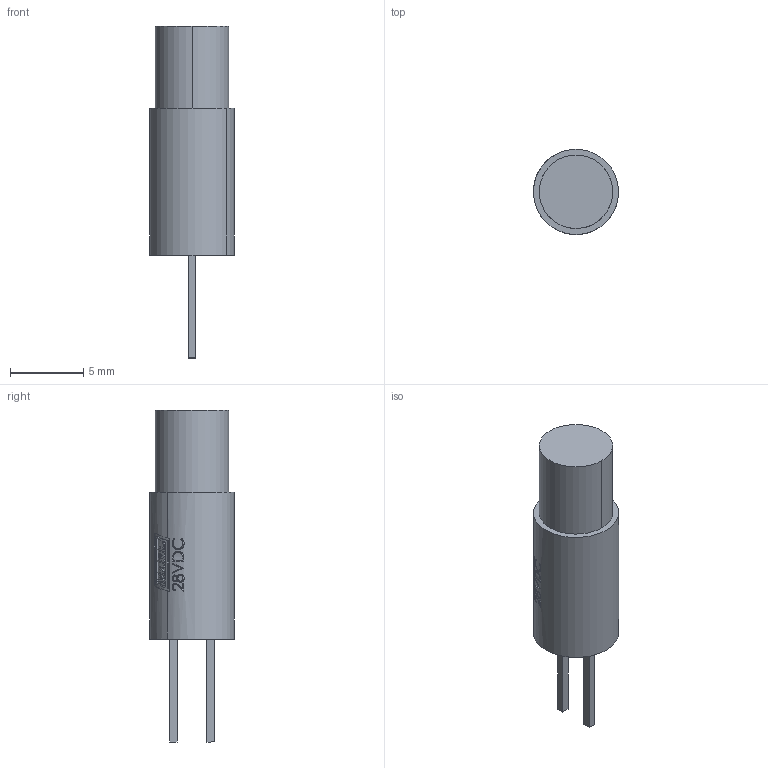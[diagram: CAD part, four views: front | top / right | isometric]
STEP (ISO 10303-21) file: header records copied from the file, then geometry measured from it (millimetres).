
FILE_DESCRIPTION (( 'STEP AP203' ), '1' );
FILE_NAME ('204 Series.STEP', '2016-08-03T08:07:56', ( '' ), ( '' ), 'SwSTEP 2.0', 'SolidWorks 2016', '' );
FILE_SCHEMA (( 'CONFIG_CONTROL_DESIGN' ));
Length unit declared in the file: millimetre
Products named in the file (3): 204 Series; 204 Series Body; LED_501_Longer Pins
Assembly tree (2 placements, depth 2):
  204 Series
    204 Series Body
    LED_501_Longer Pins
Bounding box: 5.78 x 5.78 x 22.6 mm (x, y, z)
Volume: 225.5 mm3; surface area: 592.1 mm2
Topology: 5 solids, 7 shells, 221 faces, 556 edges, 368 vertices
Faces by surface type: plane 145, bspline 39, cylinder 37
Entity records: 8386 total; most frequent: CARTESIAN_POINT 3509, ORIENTED_EDGE 1112, DIRECTION 712, EDGE_CURVE 556, VERTEX_POINT 368, VECTOR 286, LINE 286, EDGE_LOOP 240
